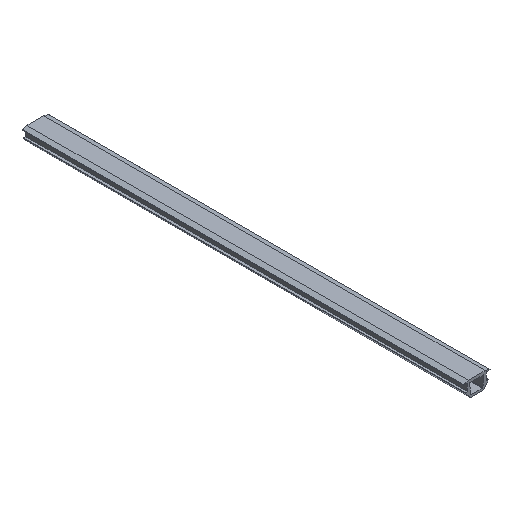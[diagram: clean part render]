
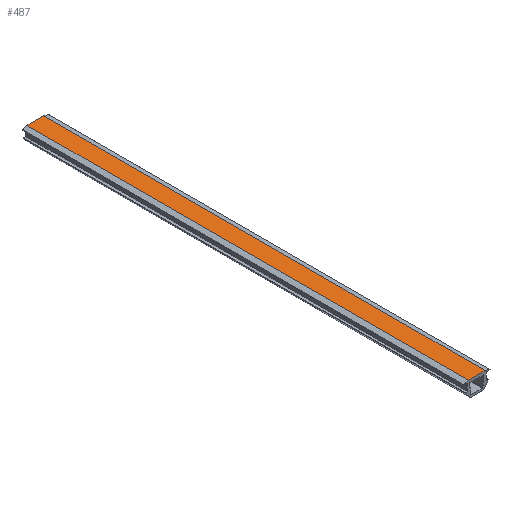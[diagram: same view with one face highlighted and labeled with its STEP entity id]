
A CAD part, isometric view. The second image highlights one B-rep face of the part: STEP entity #487.
In plain terms, the highlighted planar face has unit normal (0, 0, 1).
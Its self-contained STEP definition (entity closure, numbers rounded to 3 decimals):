
#14 = DIRECTION ( 'NONE',  ( 0., 1., 0. ) ) ;
#15 = CARTESIAN_POINT ( 'NONE',  ( -3.761, 0., 0. ) ) ;
#70 = CARTESIAN_POINT ( 'NONE',  ( -3.761, -200., 0. ) ) ;
#73 = EDGE_CURVE ( 'NONE', #524, #826, #798, .T. ) ;
#76 = DIRECTION ( 'NONE',  ( -1., 0., 0. ) ) ;
#89 = LINE ( 'NONE', #543, #555 ) ;
#116 = ORIENTED_EDGE ( 'NONE', *, *, #73, .T. ) ;
#157 = LINE ( 'NONE', #70, #166 ) ;
#166 = VECTOR ( 'NONE', #14, 1000. ) ;
#175 = ORIENTED_EDGE ( 'NONE', *, *, #616, .F. ) ;
#204 = FACE_OUTER_BOUND ( 'NONE', #534, .T. ) ;
#209 = CARTESIAN_POINT ( 'NONE',  ( 3.761, 0., 0. ) ) ;
#281 = DIRECTION ( 'NONE',  ( 0., 0., -1. ) ) ;
#288 = CARTESIAN_POINT ( 'NONE',  ( 3.761, -200., 0. ) ) ;
#316 = DIRECTION ( 'NONE',  ( -1., 0., 0. ) ) ;
#341 = VECTOR ( 'NONE', #439, 1000. ) ;
#350 = CARTESIAN_POINT ( 'NONE',  ( -3.761, -200., 0. ) ) ;
#351 = LINE ( 'NONE', #856, #747 ) ;
#426 = PLANE ( 'NONE',  #617 ) ;
#439 = DIRECTION ( 'NONE',  ( 0., 1., 0. ) ) ;
#487 = ADVANCED_FACE ( 'NONE', ( #204 ), #426, .F. ) ;
#524 = VERTEX_POINT ( 'NONE', #775 ) ;
#534 = EDGE_LOOP ( 'NONE', ( #799, #893, #175, #116 ) ) ;
#543 = CARTESIAN_POINT ( 'NONE',  ( 3.761, -200., 0. ) ) ;
#544 = EDGE_CURVE ( 'NONE', #826, #686, #351, .T. ) ;
#555 = VECTOR ( 'NONE', #316, 1000. ) ;
#616 = EDGE_CURVE ( 'NONE', #524, #804, #89, .T. ) ;
#617 = AXIS2_PLACEMENT_3D ( 'NONE', #288, #281, #864 ) ;
#686 = VERTEX_POINT ( 'NONE', #15 ) ;
#747 = VECTOR ( 'NONE', #76, 1000. ) ;
#775 = CARTESIAN_POINT ( 'NONE',  ( 3.761, -200., 0. ) ) ;
#798 = LINE ( 'NONE', #860, #341 ) ;
#799 = ORIENTED_EDGE ( 'NONE', *, *, #544, .T. ) ;
#804 = VERTEX_POINT ( 'NONE', #350 ) ;
#826 = VERTEX_POINT ( 'NONE', #209 ) ;
#856 = CARTESIAN_POINT ( 'NONE',  ( 3.761, 0., 0. ) ) ;
#860 = CARTESIAN_POINT ( 'NONE',  ( 3.761, -200., 0. ) ) ;
#864 = DIRECTION ( 'NONE',  ( -1., 0., 0. ) ) ;
#869 = EDGE_CURVE ( 'NONE', #804, #686, #157, .T. ) ;
#893 = ORIENTED_EDGE ( 'NONE', *, *, #869, .F. ) ;
